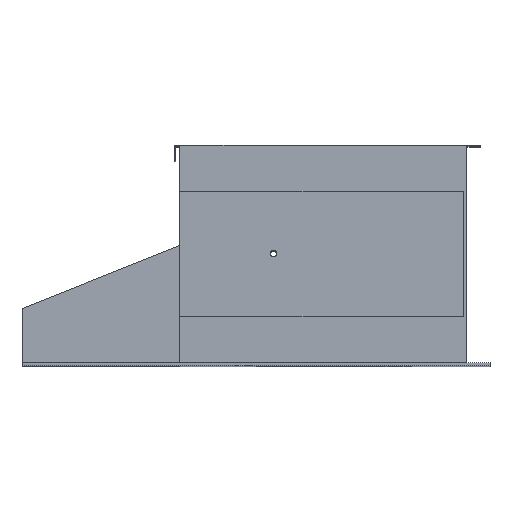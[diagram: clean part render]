
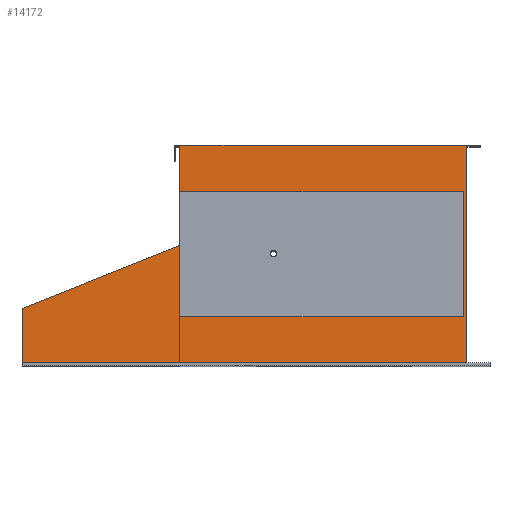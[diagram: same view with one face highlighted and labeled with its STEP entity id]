
A CAD part, top view. The second image highlights one B-rep face of the part: STEP entity #14172.
In plain terms, the highlighted planar face has unit normal (0, 0, 1).
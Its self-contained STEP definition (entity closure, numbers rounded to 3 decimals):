
#147 = VECTOR ( 'NONE', #30964, 1000. ) ;
#219 = VECTOR ( 'NONE', #40926, 1000. ) ;
#1504 = VECTOR ( 'NONE', #8671, 1000. ) ;
#3332 = EDGE_CURVE ( 'NONE', #23997, #44810, #6121, .T. ) ;
#3814 = VECTOR ( 'NONE', #40322, 1000. ) ;
#4188 = DIRECTION ( 'NONE',  ( 1., 0., 0. ) ) ;
#4626 = DIRECTION ( 'NONE',  ( -1., 0., 0. ) ) ;
#5529 = EDGE_CURVE ( 'NONE', #15736, #28740, #24464, .T. ) ;
#6121 = LINE ( 'NONE', #30847, #30223 ) ;
#6576 = ORIENTED_EDGE ( 'NONE', *, *, #14058, .F. ) ;
#7584 = VERTEX_POINT ( 'NONE', #8717 ) ;
#7815 = DIRECTION ( 'NONE',  ( 0., 1., 0. ) ) ;
#7826 = LINE ( 'NONE', #50812, #53823 ) ;
#7871 = CARTESIAN_POINT ( 'NONE',  ( 331.485, -97.895, 293. ) ) ;
#8141 = CARTESIAN_POINT ( 'NONE',  ( 359.485, 174.896, 293. ) ) ;
#8217 = CARTESIAN_POINT ( 'NONE',  ( -375.515, 0., 293. ) ) ;
#8234 = LINE ( 'NONE', #31032, #30881 ) ;
#8671 = DIRECTION ( 'NONE',  ( 0., 1., 0. ) ) ;
#8717 = CARTESIAN_POINT ( 'NONE',  ( 331.485, 102.105, 293. ) ) ;
#8722 = ORIENTED_EDGE ( 'NONE', *, *, #17079, .T. ) ;
#8814 = CARTESIAN_POINT ( 'NONE',  ( -122.515, -97.895, 293. ) ) ;
#8837 = LINE ( 'NONE', #56702, #31443 ) ;
#8930 = VERTEX_POINT ( 'NONE', #34869 ) ;
#9760 = CARTESIAN_POINT ( 'NONE',  ( -122.515, 0., 293. ) ) ;
#10069 = VECTOR ( 'NONE', #45655, 1000. ) ;
#10081 = PLANE ( 'NONE',  #24735 ) ;
#10201 = ORIENTED_EDGE ( 'NONE', *, *, #27746, .F. ) ;
#10467 = LINE ( 'NONE', #18205, #56284 ) ;
#12445 = CARTESIAN_POINT ( 'NONE',  ( 337.485, 0., 293. ) ) ;
#12814 = EDGE_CURVE ( 'NONE', #28740, #23073, #27288, .T. ) ;
#12856 = CARTESIAN_POINT ( 'NONE',  ( 0., 174.896, 293. ) ) ;
#13792 = LINE ( 'NONE', #8217, #147 ) ;
#14058 = EDGE_CURVE ( 'NONE', #50261, #23997, #37518, .T. ) ;
#14172 = ADVANCED_FACE ( 'NONE', ( #56656 ), #10081, .T. ) ;
#15736 = VERTEX_POINT ( 'NONE', #20931 ) ;
#16271 = DIRECTION ( 'NONE',  ( -1., 0., 0. ) ) ;
#16934 = DIRECTION ( 'NONE',  ( 0., -1., 0. ) ) ;
#17024 = DIRECTION ( 'NONE',  ( 0., -1., 0. ) ) ;
#17079 = EDGE_CURVE ( 'NONE', #54425, #53872, #8234, .T. ) ;
#17711 = DIRECTION ( 'NONE',  ( 0., 1., 0. ) ) ;
#18142 = ORIENTED_EDGE ( 'NONE', *, *, #12814, .F. ) ;
#18161 = CARTESIAN_POINT ( 'NONE',  ( 0., -171.895, 293. ) ) ;
#18205 = CARTESIAN_POINT ( 'NONE',  ( 0., 174.896, 293. ) ) ;
#18359 = ORIENTED_EDGE ( 'NONE', *, *, #22762, .T. ) ;
#19277 = DIRECTION ( 'NONE',  ( 1., 0., 0. ) ) ;
#19344 = VECTOR ( 'NONE', #4626, 1000. ) ;
#19718 = EDGE_CURVE ( 'NONE', #44810, #41424, #8837, .T. ) ;
#20130 = CARTESIAN_POINT ( 'NONE',  ( 331.485, -97.895, 293. ) ) ;
#20545 = VERTEX_POINT ( 'NONE', #37956 ) ;
#20931 = CARTESIAN_POINT ( 'NONE',  ( -122.515, 16.305, 293. ) ) ;
#21256 = CARTESIAN_POINT ( 'NONE',  ( -130.515, 151.605, 293. ) ) ;
#22762 = EDGE_CURVE ( 'NONE', #24755, #8930, #33960, .T. ) ;
#23036 = CARTESIAN_POINT ( 'NONE',  ( 0., 0., 293. ) ) ;
#23073 = VERTEX_POINT ( 'NONE', #7871 ) ;
#23997 = VERTEX_POINT ( 'NONE', #25818 ) ;
#24464 = LINE ( 'NONE', #36523, #219 ) ;
#24491 = CARTESIAN_POINT ( 'NONE',  ( 337.485, -171.895, 293. ) ) ;
#24735 = AXIS2_PLACEMENT_3D ( 'NONE', #23036, #45767, #19277 ) ;
#24755 = VERTEX_POINT ( 'NONE', #36201 ) ;
#25325 = ORIENTED_EDGE ( 'NONE', *, *, #19718, .F. ) ;
#25818 = CARTESIAN_POINT ( 'NONE',  ( -130.515, 176.605, 293. ) ) ;
#25902 = CARTESIAN_POINT ( 'NONE',  ( 331.485, -97.895, 293. ) ) ;
#25990 = ORIENTED_EDGE ( 'NONE', *, *, #57682, .T. ) ;
#27288 = LINE ( 'NONE', #20130, #47915 ) ;
#27631 = VECTOR ( 'NONE', #16271, 1000. ) ;
#27746 = EDGE_CURVE ( 'NONE', #23073, #7584, #34219, .T. ) ;
#28020 = LINE ( 'NONE', #18161, #3814 ) ;
#28135 = VECTOR ( 'NONE', #44020, 1000. ) ;
#28740 = VERTEX_POINT ( 'NONE', #8814 ) ;
#28907 = DIRECTION ( 'NONE',  ( -0.928, -0.371, 0. ) ) ;
#30223 = VECTOR ( 'NONE', #4188, 1000. ) ;
#30847 = CARTESIAN_POINT ( 'NONE',  ( 0., 176.605, 293. ) ) ;
#30881 = VECTOR ( 'NONE', #17711, 1000. ) ;
#30908 = LINE ( 'NONE', #12856, #28135 ) ;
#30964 = DIRECTION ( 'NONE',  ( 0., -1., 0. ) ) ;
#31032 = CARTESIAN_POINT ( 'NONE',  ( -129.015, 0., 293. ) ) ;
#31423 = VERTEX_POINT ( 'NONE', #24491 ) ;
#31443 = VECTOR ( 'NONE', #16934, 1000. ) ;
#32332 = CARTESIAN_POINT ( 'NONE',  ( -129.015, 174.896, 293. ) ) ;
#33024 = LINE ( 'NONE', #12445, #54958 ) ;
#33292 = CARTESIAN_POINT ( 'NONE',  ( 331.485, 102.105, 293. ) ) ;
#33960 = LINE ( 'NONE', #9760, #10069 ) ;
#34219 = LINE ( 'NONE', #25902, #57508 ) ;
#34869 = CARTESIAN_POINT ( 'NONE',  ( -122.515, 102.105, 293. ) ) ;
#35538 = EDGE_CURVE ( 'NONE', #54425, #50261, #55881, .T. ) ;
#35731 = ORIENTED_EDGE ( 'NONE', *, *, #55502, .T. ) ;
#36034 = EDGE_CURVE ( 'NONE', #15736, #20545, #7826, .T. ) ;
#36201 = CARTESIAN_POINT ( 'NONE',  ( -122.515, 174.896, 293. ) ) ;
#36523 = CARTESIAN_POINT ( 'NONE',  ( -122.515, -97.895, 293. ) ) ;
#37518 = LINE ( 'NONE', #40062, #1504 ) ;
#37956 = CARTESIAN_POINT ( 'NONE',  ( -375.515, -84.895, 293. ) ) ;
#38168 = ORIENTED_EDGE ( 'NONE', *, *, #44673, .T. ) ;
#40062 = CARTESIAN_POINT ( 'NONE',  ( -130.515, 0., 293. ) ) ;
#40322 = DIRECTION ( 'NONE',  ( 1., 0., 0. ) ) ;
#40581 = EDGE_LOOP ( 'NONE', ( #38168, #25990, #47239, #35731, #25325, #53977, #6576, #45298, #8722, #46684, #18359, #50093, #10201, #18142, #55537, #45475 ) ) ;
#40703 = VERTEX_POINT ( 'NONE', #46683 ) ;
#40888 = EDGE_CURVE ( 'NONE', #40703, #31423, #33024, .T. ) ;
#40926 = DIRECTION ( 'NONE',  ( 0., -1., 0. ) ) ;
#41424 = VERTEX_POINT ( 'NONE', #8141 ) ;
#42401 = DIRECTION ( 'NONE',  ( 1., 0., 0. ) ) ;
#44020 = DIRECTION ( 'NONE',  ( 1., 0., 0. ) ) ;
#44673 = EDGE_CURVE ( 'NONE', #20545, #56777, #13792, .T. ) ;
#44810 = VERTEX_POINT ( 'NONE', #47583 ) ;
#45298 = ORIENTED_EDGE ( 'NONE', *, *, #35538, .F. ) ;
#45475 = ORIENTED_EDGE ( 'NONE', *, *, #36034, .T. ) ;
#45655 = DIRECTION ( 'NONE',  ( 0., -1., 0. ) ) ;
#45767 = DIRECTION ( 'NONE',  ( 0., 0., 1. ) ) ;
#46683 = CARTESIAN_POINT ( 'NONE',  ( 337.485, 174.896, 293. ) ) ;
#46684 = ORIENTED_EDGE ( 'NONE', *, *, #56368, .T. ) ;
#47239 = ORIENTED_EDGE ( 'NONE', *, *, #40888, .F. ) ;
#47583 = CARTESIAN_POINT ( 'NONE',  ( 359.485, 176.605, 293. ) ) ;
#47915 = VECTOR ( 'NONE', #42401, 1000. ) ;
#50093 = ORIENTED_EDGE ( 'NONE', *, *, #52276, .F. ) ;
#50261 = VERTEX_POINT ( 'NONE', #21256 ) ;
#50812 = CARTESIAN_POINT ( 'NONE',  ( -22.521, 56.303, 293. ) ) ;
#50971 = LINE ( 'NONE', #33292, #27631 ) ;
#51196 = CARTESIAN_POINT ( 'NONE',  ( -129.015, 151.605, 293. ) ) ;
#52276 = EDGE_CURVE ( 'NONE', #7584, #8930, #50971, .T. ) ;
#53823 = VECTOR ( 'NONE', #28907, 1000. ) ;
#53872 = VERTEX_POINT ( 'NONE', #32332 ) ;
#53977 = ORIENTED_EDGE ( 'NONE', *, *, #3332, .F. ) ;
#53978 = CARTESIAN_POINT ( 'NONE',  ( 0., 151.605, 293. ) ) ;
#54359 = CARTESIAN_POINT ( 'NONE',  ( -375.515, -171.895, 293. ) ) ;
#54425 = VERTEX_POINT ( 'NONE', #51196 ) ;
#54958 = VECTOR ( 'NONE', #17024, 1000. ) ;
#55502 = EDGE_CURVE ( 'NONE', #40703, #41424, #10467, .T. ) ;
#55537 = ORIENTED_EDGE ( 'NONE', *, *, #5529, .F. ) ;
#55881 = LINE ( 'NONE', #53978, #19344 ) ;
#56284 = VECTOR ( 'NONE', #57897, 1000. ) ;
#56368 = EDGE_CURVE ( 'NONE', #53872, #24755, #30908, .T. ) ;
#56656 = FACE_OUTER_BOUND ( 'NONE', #40581, .T. ) ;
#56702 = CARTESIAN_POINT ( 'NONE',  ( 359.485, 0., 293. ) ) ;
#56777 = VERTEX_POINT ( 'NONE', #54359 ) ;
#57508 = VECTOR ( 'NONE', #7815, 1000. ) ;
#57682 = EDGE_CURVE ( 'NONE', #56777, #31423, #28020, .T. ) ;
#57897 = DIRECTION ( 'NONE',  ( 1., 0., 0. ) ) ;
